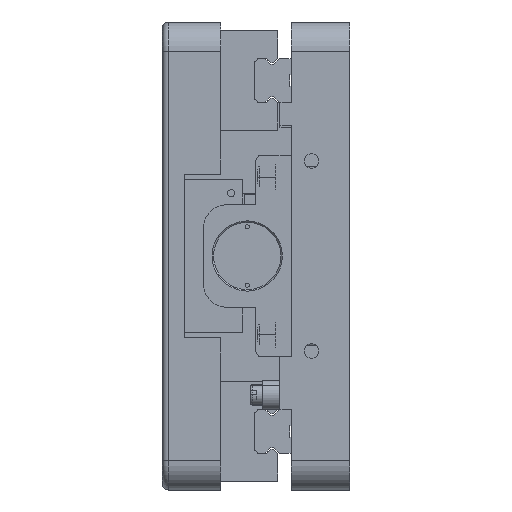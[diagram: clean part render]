
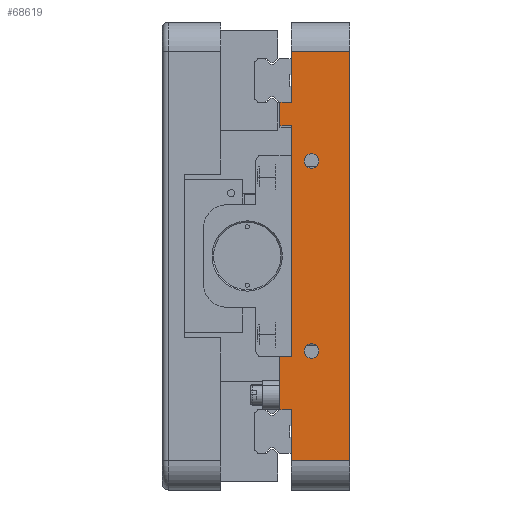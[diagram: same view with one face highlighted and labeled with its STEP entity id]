
A CAD part, left-side view. The second image highlights one B-rep face of the part: STEP entity #68619.
In plain terms, the highlighted planar face has unit normal (-1, 0, 0).
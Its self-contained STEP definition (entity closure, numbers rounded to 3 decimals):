
#72 = CARTESIAN_POINT ( 'NONE',  ( -411.5, 13., 32.5 ) ) ;
#232 = VECTOR ( 'NONE', #64054, 1000. ) ;
#1668 = VECTOR ( 'NONE', #33311, 1000. ) ;
#1880 = EDGE_CURVE ( 'NONE', #86609, #67229, #27520, .T. ) ;
#2463 = ORIENTED_EDGE ( 'NONE', *, *, #64714, .F. ) ;
#4622 = DIRECTION ( 'NONE',  ( -1., 0., 0. ) ) ;
#5249 = DIRECTION ( 'NONE',  ( 0., 0., 1. ) ) ;
#5954 = CARTESIAN_POINT ( 'NONE',  ( -411.5, 20., 52.5 ) ) ;
#6010 = VECTOR ( 'NONE', #38397, 1000. ) ;
#13137 = FACE_OUTER_BOUND ( 'NONE', #21550, .T. ) ;
#13191 = VERTEX_POINT ( 'NONE', #70396 ) ;
#13257 = ORIENTED_EDGE ( 'NONE', *, *, #88186, .F. ) ;
#13558 = CARTESIAN_POINT ( 'NONE',  ( -411.5, 23.8, -70. ) ) ;
#13801 = VECTOR ( 'NONE', #35093, 1000. ) ;
#14290 = AXIS2_PLACEMENT_3D ( 'NONE', #32738, #25783, #47561 ) ;
#15237 = VECTOR ( 'NONE', #44265, 1000. ) ;
#15300 = ORIENTED_EDGE ( 'NONE', *, *, #17745, .F. ) ;
#16665 = ORIENTED_EDGE ( 'NONE', *, *, #46086, .T. ) ;
#17577 = EDGE_CURVE ( 'NONE', #57229, #50620, #60301, .T. ) ;
#17633 = CARTESIAN_POINT ( 'NONE',  ( -411.5, 13., 32.5 ) ) ;
#17664 = FACE_BOUND ( 'NONE', #58303, .T. ) ;
#17745 = EDGE_CURVE ( 'NONE', #74708, #57229, #44458, .T. ) ;
#17774 = VECTOR ( 'NONE', #86808, 1000. ) ;
#18301 = AXIS2_PLACEMENT_3D ( 'NONE', #62548, #34490, #77660 ) ;
#19676 = ORIENTED_EDGE ( 'NONE', *, *, #24634, .T. ) ;
#20341 = CARTESIAN_POINT ( 'NONE',  ( -411.5, 0., -70. ) ) ;
#20831 = LINE ( 'NONE', #82826, #1668 ) ;
#20911 = VERTEX_POINT ( 'NONE', #5954 ) ;
#21550 = EDGE_LOOP ( 'NONE', ( #81676, #56281, #33708, #69260, #26640, #16665, #78332, #15300, #40927, #19676, #36922, #2463 ) ) ;
#22583 = AXIS2_PLACEMENT_3D ( 'NONE', #72, #71674, #42330 ) ;
#22777 = CARTESIAN_POINT ( 'NONE',  ( -411.5, 0., -80. ) ) ;
#24313 = DIRECTION ( 'NONE',  ( 0., 0., -1. ) ) ;
#24634 = EDGE_CURVE ( 'NONE', #13191, #57391, #39256, .T. ) ;
#25023 = VERTEX_POINT ( 'NONE', #77934 ) ;
#25062 = AXIS2_PLACEMENT_3D ( 'NONE', #47835, #4622, #5249 ) ;
#25783 = DIRECTION ( 'NONE',  ( -1., 0., 0. ) ) ;
#25789 = CARTESIAN_POINT ( 'NONE',  ( -411.5, 13., 35. ) ) ;
#26640 = ORIENTED_EDGE ( 'NONE', *, *, #36529, .T. ) ;
#27172 = CARTESIAN_POINT ( 'NONE',  ( -411.5, 13., -35. ) ) ;
#27520 = CIRCLE ( 'NONE', #88174, 2.5 ) ;
#27929 = EDGE_CURVE ( 'NONE', #37173, #57391, #70349, .T. ) ;
#29249 = DIRECTION ( 'NONE',  ( 0., 0., 1. ) ) ;
#30425 = EDGE_CURVE ( 'NONE', #73225, #56010, #20831, .T. ) ;
#30466 = VERTEX_POINT ( 'NONE', #76182 ) ;
#30792 = CARTESIAN_POINT ( 'NONE',  ( -411.5, 23.8, -80. ) ) ;
#31126 = VECTOR ( 'NONE', #24313, 1000. ) ;
#31381 = CARTESIAN_POINT ( 'NONE',  ( -411.5, 20., 80. ) ) ;
#32738 = CARTESIAN_POINT ( 'NONE',  ( -411.5, 13., -32.5 ) ) ;
#33311 = DIRECTION ( 'NONE',  ( 0., 0., -1. ) ) ;
#33708 = ORIENTED_EDGE ( 'NONE', *, *, #81562, .T. ) ;
#34490 = DIRECTION ( 'NONE',  ( 1., 0., 0. ) ) ;
#35093 = DIRECTION ( 'NONE',  ( 0., 1., 0. ) ) ;
#36529 = EDGE_CURVE ( 'NONE', #64318, #20911, #90104, .T. ) ;
#36922 = ORIENTED_EDGE ( 'NONE', *, *, #27929, .F. ) ;
#37173 = VERTEX_POINT ( 'NONE', #74513 ) ;
#38397 = DIRECTION ( 'NONE',  ( 0., 0., 1. ) ) ;
#39256 = LINE ( 'NONE', #43638, #17774 ) ;
#40270 = CARTESIAN_POINT ( 'NONE',  ( -411.5, 23.8, 44.5 ) ) ;
#40927 = ORIENTED_EDGE ( 'NONE', *, *, #84343, .T. ) ;
#41078 = VECTOR ( 'NONE', #29249, 1000. ) ;
#41705 = PLANE ( 'NONE',  #18301 ) ;
#42043 = LINE ( 'NONE', #78281, #13801 ) ;
#42330 = DIRECTION ( 'NONE',  ( 0., 0., 1. ) ) ;
#43638 = CARTESIAN_POINT ( 'NONE',  ( -411.5, -110.209, -34.5 ) ) ;
#44195 = CARTESIAN_POINT ( 'NONE',  ( -411.5, -823.459, 52.5 ) ) ;
#44265 = DIRECTION ( 'NONE',  ( 0., 0., 1. ) ) ;
#44458 = LINE ( 'NONE', #49037, #80545 ) ;
#44526 = DIRECTION ( 'NONE',  ( 0., 1., 0. ) ) ;
#44586 = CIRCLE ( 'NONE', #22583, 2.5 ) ;
#44959 = CARTESIAN_POINT ( 'NONE',  ( -411.5, 20., -52.5 ) ) ;
#46086 = EDGE_CURVE ( 'NONE', #20911, #50620, #85590, .T. ) ;
#46469 = CIRCLE ( 'NONE', #14290, 2.5 ) ;
#47561 = DIRECTION ( 'NONE',  ( 0., 0., 1. ) ) ;
#47680 = CARTESIAN_POINT ( 'NONE',  ( -411.5, 20., 70. ) ) ;
#47835 = CARTESIAN_POINT ( 'NONE',  ( -411.5, 13., -32.5 ) ) ;
#47978 = LINE ( 'NONE', #52115, #31126 ) ;
#48337 = VECTOR ( 'NONE', #44526, 1000. ) ;
#49035 = CARTESIAN_POINT ( 'NONE',  ( -411.5, -823.459, -52.5 ) ) ;
#49037 = CARTESIAN_POINT ( 'NONE',  ( -411.5, -110.209, 44.5 ) ) ;
#50620 = VERTEX_POINT ( 'NONE', #58968 ) ;
#51389 = LINE ( 'NONE', #22777, #15237 ) ;
#52115 = CARTESIAN_POINT ( 'NONE',  ( -411.5, 20., 44.5 ) ) ;
#54582 = ORIENTED_EDGE ( 'NONE', *, *, #69572, .F. ) ;
#56010 = VERTEX_POINT ( 'NONE', #79644 ) ;
#56270 = VERTEX_POINT ( 'NONE', #27172 ) ;
#56281 = ORIENTED_EDGE ( 'NONE', *, *, #70865, .T. ) ;
#57075 = CARTESIAN_POINT ( 'NONE',  ( -411.5, 23.8, -80. ) ) ;
#57229 = VERTEX_POINT ( 'NONE', #40270 ) ;
#57391 = VERTEX_POINT ( 'NONE', #92550 ) ;
#57721 = CARTESIAN_POINT ( 'NONE',  ( -411.5, 20., 44.5 ) ) ;
#58303 = EDGE_LOOP ( 'NONE', ( #54582, #72610 ) ) ;
#58968 = CARTESIAN_POINT ( 'NONE',  ( -411.5, 23.8, 52.5 ) ) ;
#60168 = ORIENTED_EDGE ( 'NONE', *, *, #89815, .F. ) ;
#60301 = LINE ( 'NONE', #57075, #41078 ) ;
#61182 = DIRECTION ( 'NONE',  ( -1., 0., 0. ) ) ;
#62548 = CARTESIAN_POINT ( 'NONE',  ( -411.5, 23.8, -80. ) ) ;
#64054 = DIRECTION ( 'NONE',  ( 0., -1., 0. ) ) ;
#64318 = VERTEX_POINT ( 'NONE', #47680 ) ;
#64714 = EDGE_CURVE ( 'NONE', #73225, #37173, #72068, .T. ) ;
#67229 = VERTEX_POINT ( 'NONE', #25789 ) ;
#68619 = ADVANCED_FACE ( 'NONE', ( #74064, #17664, #13137 ), #41705, .F. ) ;
#68688 = VECTOR ( 'NONE', #82182, 1000. ) ;
#69260 = ORIENTED_EDGE ( 'NONE', *, *, #73564, .T. ) ;
#69572 = EDGE_CURVE ( 'NONE', #67229, #86609, #44586, .T. ) ;
#70349 = LINE ( 'NONE', #30792, #6010 ) ;
#70396 = CARTESIAN_POINT ( 'NONE',  ( -411.5, 20., -34.5 ) ) ;
#70865 = EDGE_CURVE ( 'NONE', #56010, #79703, #85982, .T. ) ;
#71674 = DIRECTION ( 'NONE',  ( -1., 0., 0. ) ) ;
#72068 = LINE ( 'NONE', #49035, #77640 ) ;
#72610 = ORIENTED_EDGE ( 'NONE', *, *, #1880, .F. ) ;
#73225 = VERTEX_POINT ( 'NONE', #44959 ) ;
#73564 = EDGE_CURVE ( 'NONE', #30466, #64318, #42043, .T. ) ;
#74064 = FACE_BOUND ( 'NONE', #83335, .T. ) ;
#74513 = CARTESIAN_POINT ( 'NONE',  ( -411.5, 23.8, -52.5 ) ) ;
#74708 = VERTEX_POINT ( 'NONE', #57721 ) ;
#76182 = CARTESIAN_POINT ( 'NONE',  ( -411.5, 0., 70. ) ) ;
#77640 = VECTOR ( 'NONE', #84365, 1000. ) ;
#77660 = DIRECTION ( 'NONE',  ( 0., 0., -1. ) ) ;
#77934 = CARTESIAN_POINT ( 'NONE',  ( -411.5, 13., -30. ) ) ;
#78281 = CARTESIAN_POINT ( 'NONE',  ( -411.5, 23.8, 70. ) ) ;
#78332 = ORIENTED_EDGE ( 'NONE', *, *, #17577, .F. ) ;
#79644 = CARTESIAN_POINT ( 'NONE',  ( -411.5, 20., -70. ) ) ;
#79703 = VERTEX_POINT ( 'NONE', #20341 ) ;
#80545 = VECTOR ( 'NONE', #85874, 1000. ) ;
#81562 = EDGE_CURVE ( 'NONE', #79703, #30466, #51389, .T. ) ;
#81676 = ORIENTED_EDGE ( 'NONE', *, *, #30425, .T. ) ;
#82182 = DIRECTION ( 'NONE',  ( 0., 0., -1. ) ) ;
#82826 = CARTESIAN_POINT ( 'NONE',  ( -411.5, 20., -80. ) ) ;
#82940 = DIRECTION ( 'NONE',  ( 0., 0., 1. ) ) ;
#83335 = EDGE_LOOP ( 'NONE', ( #13257, #60168 ) ) ;
#84024 = CIRCLE ( 'NONE', #25062, 2.5 ) ;
#84343 = EDGE_CURVE ( 'NONE', #74708, #13191, #47978, .T. ) ;
#84365 = DIRECTION ( 'NONE',  ( 0., 1., 0. ) ) ;
#85590 = LINE ( 'NONE', #44195, #48337 ) ;
#85874 = DIRECTION ( 'NONE',  ( 0., 1., 0. ) ) ;
#85982 = LINE ( 'NONE', #13558, #232 ) ;
#86609 = VERTEX_POINT ( 'NONE', #89095 ) ;
#86808 = DIRECTION ( 'NONE',  ( 0., 1., 0. ) ) ;
#88174 = AXIS2_PLACEMENT_3D ( 'NONE', #17633, #61182, #82940 ) ;
#88186 = EDGE_CURVE ( 'NONE', #25023, #56270, #84024, .T. ) ;
#89095 = CARTESIAN_POINT ( 'NONE',  ( -411.5, 13., 30. ) ) ;
#89815 = EDGE_CURVE ( 'NONE', #56270, #25023, #46469, .T. ) ;
#90104 = LINE ( 'NONE', #31381, #68688 ) ;
#92550 = CARTESIAN_POINT ( 'NONE',  ( -411.5, 23.8, -34.5 ) ) ;
